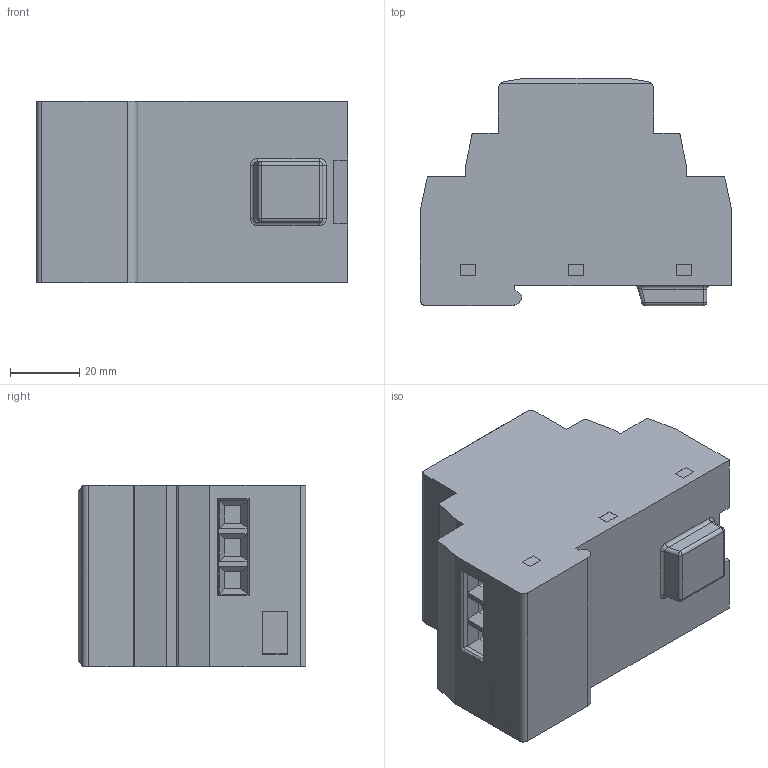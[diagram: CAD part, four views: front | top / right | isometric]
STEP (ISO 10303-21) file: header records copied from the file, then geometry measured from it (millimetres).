
FILE_DESCRIPTION(/* description */ (''),/* implementation_level */ '2;1');
FILE_NAME(/* name */ 'K:\PROJEKTY ROZPRACOVANÉ\MODELY DO KATALOGU\HSAF\3D - STEP\HSAF 3M.stp',/* time_stamp */ '2020-03-25T09:06:03+01:00',/* author */ ('M Koliska'),/* organization */ (''),/* preprocessor_version */ 'ST-DEVELOPER v18',/* originating_system */ 'Autodesk Inventor 2020',/* authorisation */ '');
FILE_SCHEMA (('AUTOMOTIVE_DESIGN { 1 0 10303 214 3 1 1 }'));
Length unit declared in the file: millimetre
Products named in the file (4): HSAF10, 16; OBAL; DG636 - 9.52 2P; DG636 - 9.52 3P
Assembly tree (3 placements, depth 2):
  HSAF10, 16
    OBAL
    DG636 - 9.52 2P
    DG636 - 9.52 3P
Bounding box: 90 x 65.8 x 52.5 mm (x, y, z)
Volume: 237918.4 mm3; surface area: 33056.5 mm2
Topology: 3 solids, 3 shells, 326 faces, 783 edges, 500 vertices
Faces by surface type: plane 265, cylinder 49, sphere 4, cone 4, bspline 2, torus 2
Full cylindrical faces by diameter (mm): 0.8 x5, 4.5 x5, 5 x5
Entity records: 9595 total; most frequent: CARTESIAN_POINT 1664, DIRECTION 1585, ORIENTED_EDGE 1566, EDGE_CURVE 783, LINE 643, VECTOR 643, VERTEX_POINT 500, AXIS2_PLACEMENT_3D 471
